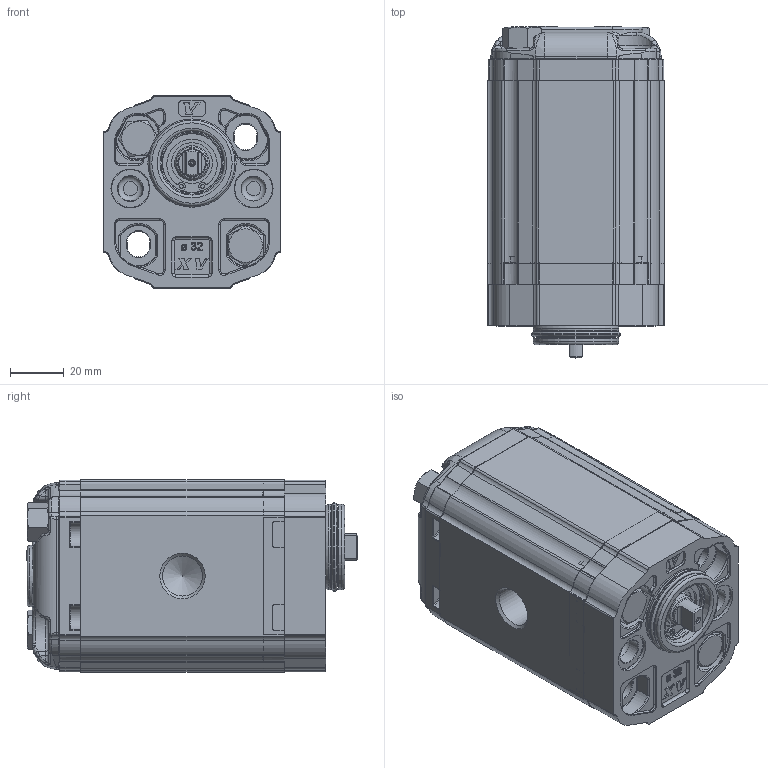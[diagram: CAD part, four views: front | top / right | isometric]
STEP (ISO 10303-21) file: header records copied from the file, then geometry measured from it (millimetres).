
FILE_DESCRIPTION( ( 'Unknown' ), '1' );
FILE_NAME( 'P:/montaggio_easy/output/STP/X1P3641DBBA.stp', 'Unknown', ( 'Unknown' ), ( 'Unknown' ), 'PSStep 14.0', 'Unknown', ' ' );
FILE_SCHEMA( ( 'AUTOMOTIVE_DESIGN { 1 0 10303 214 1 1 1 1 }' ) );
Length unit declared in the file: millimetre
Products named in the file (5): Assem1; X1P41; 1D; X1BBH76; XP119-A
Bounding box: 66 x 123.9 x 72 mm (x, y, z)
Surface area: 149540.3 mm2
Topology: 8 solids, 10 shells, 3654 faces, 9234 edges, 5846 vertices
Faces by surface type: plane 1636, cylinder 990, torus 366, extrusion 296, bspline 252, cone 106, sphere 8
Full cylindrical faces by diameter (mm): 1.447 x4, 1.5 x2, 2.5 x2, 3 x8, 8 x8, 8.5 x6, 9 x4, 9.3 x4, 10 x2, 10.5 x4, 11.965 x2, 12 x6, 12.923 x2, 14.5 x4, 14.95 x4, 15.115 x2, 15.181 x2, 19 x2, 20 x2, 22 x4, 22.2 x2, 23 x2, 24 x2, 29.4 x4, 32 x4, 32.96 x2
Entity records: 76912 total; most frequent: CARTESIAN_POINT 19423, ORIENTED_EDGE 8910, DIRECTION 8630, EDGE_CURVE 4455, AXIS2_PLACEMENT_3D 3001, VERTEX_POINT 2880, VECTOR 2628, LINE 2480
